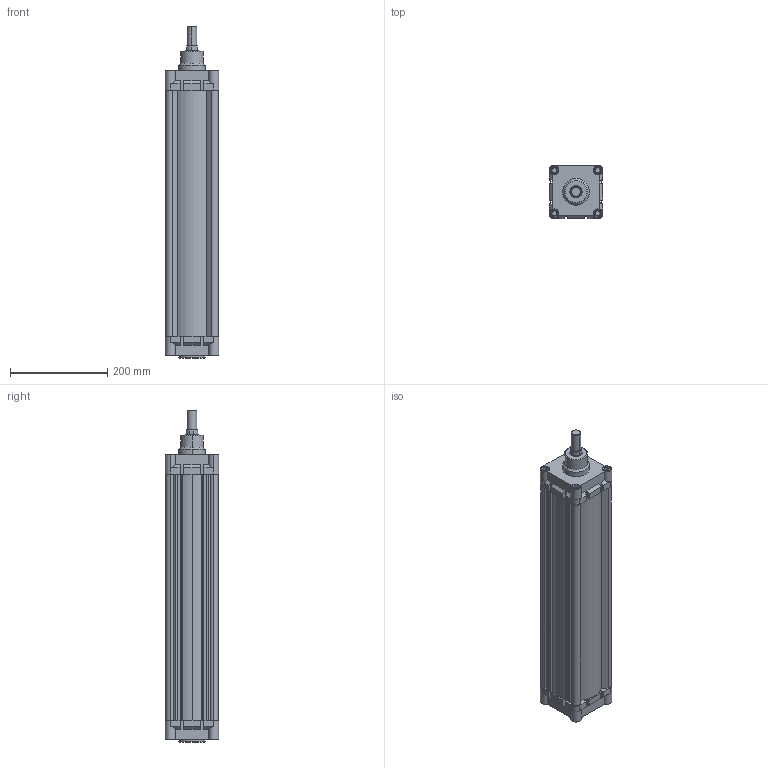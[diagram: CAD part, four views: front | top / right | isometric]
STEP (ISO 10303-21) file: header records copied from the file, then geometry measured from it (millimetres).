
FILE_DESCRIPTION (( 'STEP AP214' ), '1' );
FILE_NAME ('RIC100_450_MY_WEB.STEP', '2020-09-10T17:49:41', ( '' ), ( '' ), 'SwSTEP 2.0', 'SolidWorks 2018', '' );
FILE_SCHEMA (( 'AUTOMOTIVE_DESIGN' ));
Length unit declared in the file: millimetre
Products named in the file (6): rýc100arkakapak; RIC_100_BORU_WEB; RIC100_450_MY_WEB; M12 KAPAK CÝVATASI; RIC_100_ON_KAPAK_WEB; 25_K_MIL_WEB
Assembly tree (12 placements, depth 2):
  RIC100_450_MY_WEB
    RIC_100_ON_KAPAK_WEB
    RIC_100_BORU_WEB
    rýc100arkakapak
    M12 KAPAK CÝVATASI  x8
    25_K_MIL_WEB
Bounding box: 110 x 110 x 684 mm (x, y, z)
Volume: 2342054.6 mm3; surface area: 635842.2 mm2
Topology: 12 solids, 12 shells, 717 faces, 1793 edges, 1155 vertices
Faces by surface type: plane 362, cylinder 209, bspline 81, cone 59, torus 6
Entity records: 22464 total; most frequent: CARTESIAN_POINT 7800, ORIENTED_EDGE 2746, DIRECTION 2408, EDGE_CURVE 1373, VERTEX_POINT 903, LINE 826, VECTOR 826, AXIS2_PLACEMENT_3D 791
